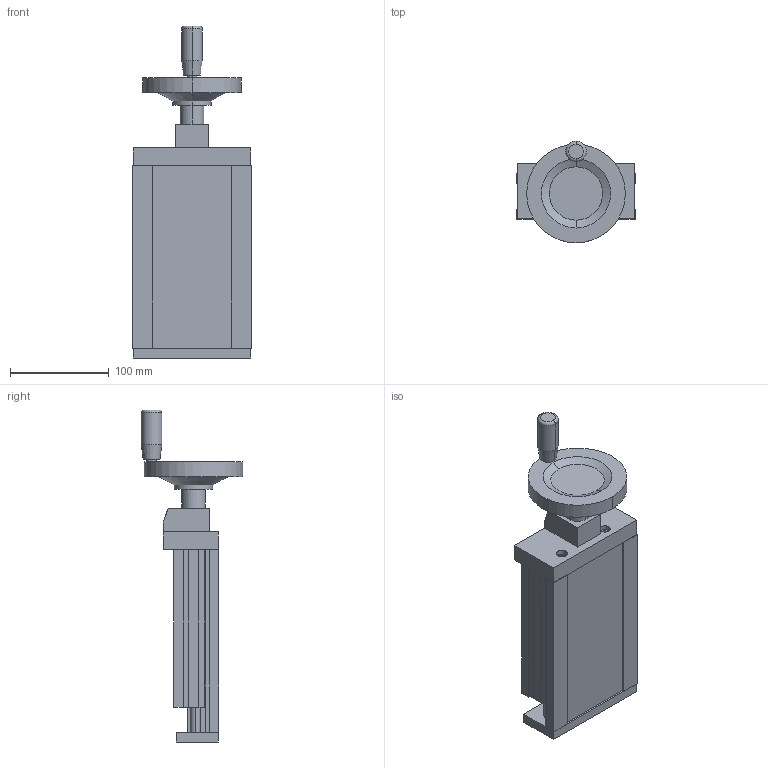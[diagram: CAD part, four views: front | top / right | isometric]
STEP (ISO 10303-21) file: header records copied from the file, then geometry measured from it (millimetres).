
FILE_DESCRIPTION (( 'STEP AP203' ), '1' );
FILE_NAME ('dL 120 digital Handrad.STEP', '2002-07-08T13:09:56', ( '' ), ( '' ), 'SwSTEP 2.0', 'SolidWorks 2002127', '' );
FILE_SCHEMA (( 'CONFIG_CONTROL_DESIGN' ));
Length unit declared in the file: millimetre
Products named in the file (3): dL 120 digital Handrad; dL 120 light-+-D013323_ _DA04 handrad; Aussenteil neu 120 light-+-D005509_ _Standard
Assembly tree (2 placements, depth 2):
  dL 120 digital Handrad
    dL 120 light-+-D013323_ _DA04 handrad
    Aussenteil neu 120 light-+-D005509_ _Standard
Bounding box: 120 x 103 x 336.5 mm (x, y, z)
Volume: 1168139.2 mm3; surface area: 213653.3 mm2
Topology: 2 solids, 3 shells, 274 faces, 733 edges, 484 vertices
Faces by surface type: plane 179, cylinder 67, bspline 20, cone 6, torus 2
Entity records: 10494 total; most frequent: CARTESIAN_POINT 3308, ORIENTED_EDGE 1466, DIRECTION 1365, EDGE_CURVE 733, LINE 539, VECTOR 539, VERTEX_POINT 484, AXIS2_PLACEMENT_3D 413
